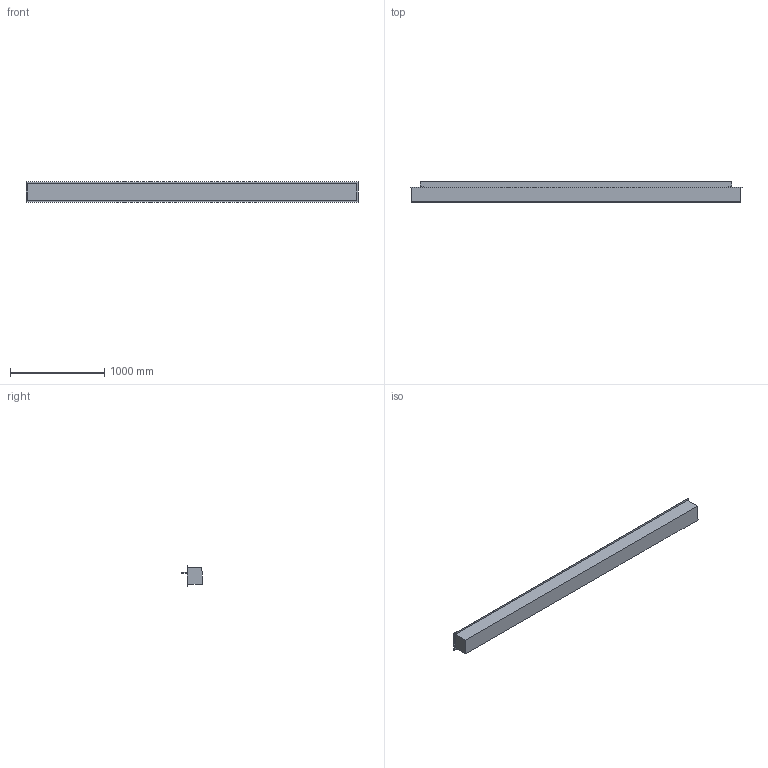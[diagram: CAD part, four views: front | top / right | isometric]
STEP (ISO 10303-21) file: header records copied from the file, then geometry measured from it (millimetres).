
FILE_DESCRIPTION (( 'STEP AP203' ), '1' );
FILE_NAME ('Denver F6 3520.STEP', '2024-03-13T09:31:51', ( '' ), ( '' ), 'SwSTEP 2.0', 'SolidWorks 2023', '' );
FILE_SCHEMA (( 'CONFIG_CONTROL_DESIGN' ));
Length unit declared in the file: millimetre
Products named in the file (1): Denver F6 3520
Bounding box: 3520 x 220 x 215 mm (x, y, z)
Volume: 99308119 mm3; surface area: 4440398.9 mm2
Topology: 8 solids, 8 shells, 68 faces, 156 edges, 104 vertices
Faces by surface type: plane 68
Entity records: 1955 total; most frequent: CARTESIAN_POINT 329, ORIENTED_EDGE 312, DIRECTION 294, EDGE_CURVE 156, LINE 156, VECTOR 156, VERTEX_POINT 104, EDGE_LOOP 74
